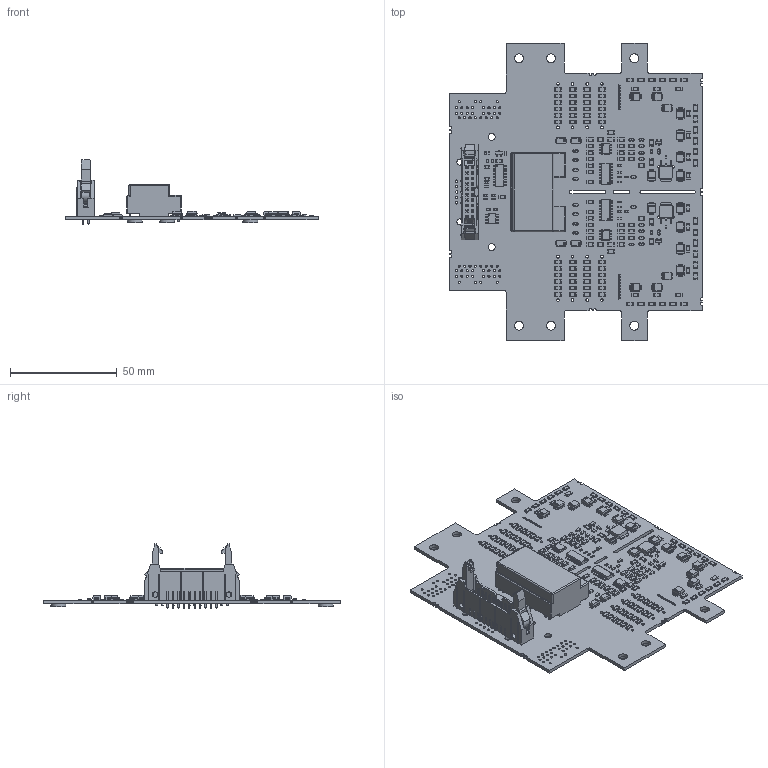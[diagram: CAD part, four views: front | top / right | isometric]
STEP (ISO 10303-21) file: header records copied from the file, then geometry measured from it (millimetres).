
FILE_DESCRIPTION(/* description */ ('Alibre Inc.'),/* implementation_level */ '2;1');
FILE_NAME(/* name */ 'export0',/* time_stamp */ '2014-03-17T09:27:52+01:00',/* author */ (''),/* organization */ (''),/* preprocessor_version */ 'ST-DEVELOPER v14',/* originating_system */ 'Alibre',/* authorisation */ '');
FILE_SCHEMA (('AUTOMOTIVE_DESIGN'));
Length unit declared in the file: millimetre
Bounding box: 117.98 x 138.95 x 29.99 mm (x, y, z)
Volume: 37106.5 mm3; surface area: 46045.5 mm2
Topology: 866 solids, 866 shells, 12409 faces, 30285 edges, 19211 vertices
Faces by surface type: plane 10056, cylinder 1877, bspline 446, sphere 17, torus 9, cone 4
Full cylindrical faces by diameter (mm): 0.406 x68, 0.5 x3, 0.8 x32, 1 x59, 1.1 x30, 1.3 x32, 2.8 x4, 3.2 x2, 4.2 x12, 7 x6
Entity records: 82043 total; most frequent: CARTESIAN_POINT 14729, ORIENTED_EDGE 12706, DIRECTION 12159, EDGE_CURVE 6353, VECTOR 5275, LINE 5275, AXIS2_PLACEMENT_3D 4329, VERTEX_POINT 4131
